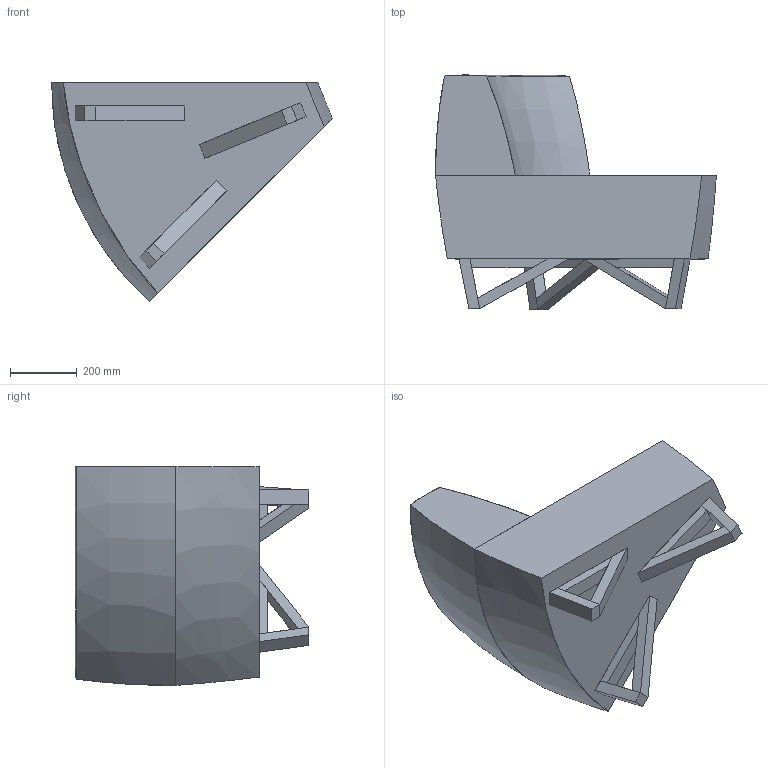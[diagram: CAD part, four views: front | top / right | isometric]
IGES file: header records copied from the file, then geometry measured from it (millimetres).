
Start section: SolidWorks IGES file using analytic representation for surfaces
Global section: file name: P:\3D CAD BLOCKS\us\45 DEGREE CORNER LINK UNIT WITH BACK\us - 45 DEGREE CORNER LINK UNIT WITH BACK.IGS; native system: SolidWorks 2012; preprocessor: SolidWorks 2012; author: adam; date: 140226.122903; units: millimetre
Bounding box: 844.51 x 703.49 x 657.73 mm (x, y, z)
Surface area: 2893731 mm2 (no closed solid volume)
Topology: 0 solids, 0 shells, 120 faces, 580 edges, 580 vertices
Faces by surface type: bspline 120
